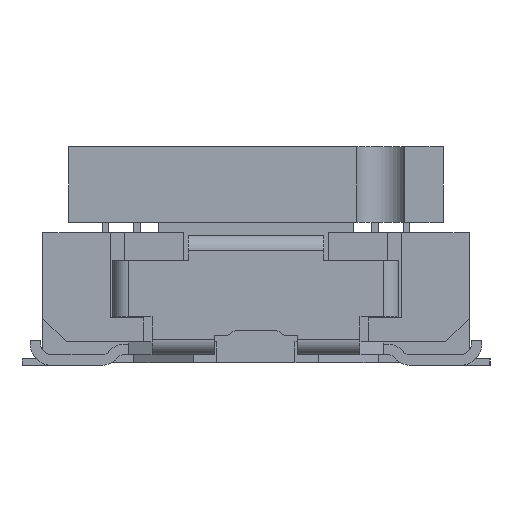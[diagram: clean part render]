
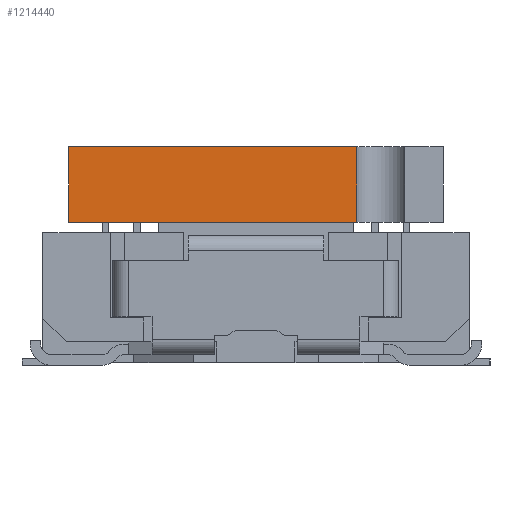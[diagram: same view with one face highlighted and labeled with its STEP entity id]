
A CAD part, left-side view. The second image highlights one B-rep face of the part: STEP entity #1214440.
In plain terms, the highlighted planar face has unit normal (-1, 0, 0).
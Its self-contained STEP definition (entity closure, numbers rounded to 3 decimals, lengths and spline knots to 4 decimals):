
#1196100=CARTESIAN_POINT('',(-7.6914,0.,4.));
#1196110=DIRECTION('',(0.,1.,0.));
#1196120=VECTOR('',#1196110,1.);
#1196130=LINE('',#1196100,#1196120);
#1196230=CARTESIAN_POINT('',(-7.6914,-1.5198,4.));
#1196240=VERTEX_POINT('',#1196230);
#1196270=CARTESIAN_POINT('',(-7.6914,4.0219,4.));
#1196280=VERTEX_POINT('',#1196270);
#1196290=EDGE_CURVE('',#1196240,#1196280,#1196130,.T.);
#1196860=CARTESIAN_POINT('',(-7.6914,4.0219,2.55));
#1196870=VERTEX_POINT('',#1196860);
#1196900=CARTESIAN_POINT('',(-7.6914,0.,2.55));
#1196910=DIRECTION('',(0.,-1.,0.));
#1196920=VECTOR('',#1196910,1.);
#1196930=LINE('',#1196900,#1196920);
#1196940=CARTESIAN_POINT('',(-7.6914,-1.5198,2.55));
#1196950=VERTEX_POINT('',#1196940);
#1196960=EDGE_CURVE('',#1196870,#1196950,#1196930,.T.);
#1214030=CARTESIAN_POINT('',(-7.6914,-1.5198,-0.4));
#1214040=DIRECTION('',(0.,0.,1.));
#1214050=VECTOR('',#1214040,1.);
#1214060=LINE('',#1214030,#1214050);
#1214070=EDGE_CURVE('',#1196950,#1196240,#1214060,.T.);
#1214170=CARTESIAN_POINT('',(-7.6914,4.0219,0.));
#1214180=DIRECTION('',(0.,0.,-1.));
#1214190=VECTOR('',#1214180,1.);
#1214200=LINE('',#1214170,#1214190);
#1214210=EDGE_CURVE('',#1196280,#1196870,#1214200,.T.);
#1214330=CARTESIAN_POINT('',(-7.6914,4.7419,2.55));
#1214340=DIRECTION('',(-1.,0.,0.));
#1214350=DIRECTION('',(0.,0.,1.));
#1214360=AXIS2_PLACEMENT_3D('',#1214330,#1214340,#1214350);
#1214370=PLANE('',#1214360);
#1214380=ORIENTED_EDGE('',*,*,#1196960,.T.);
#1214390=ORIENTED_EDGE('',*,*,#1214210,.T.);
#1214400=ORIENTED_EDGE('',*,*,#1196290,.T.);
#1214410=ORIENTED_EDGE('',*,*,#1214070,.T.);
#1214420=EDGE_LOOP('',(#1214410,#1214400,#1214390,#1214380));
#1214430=FACE_OUTER_BOUND('',#1214420,.T.);
#1214440=ADVANCED_FACE('',(#1214430),#1214370,.T.);
